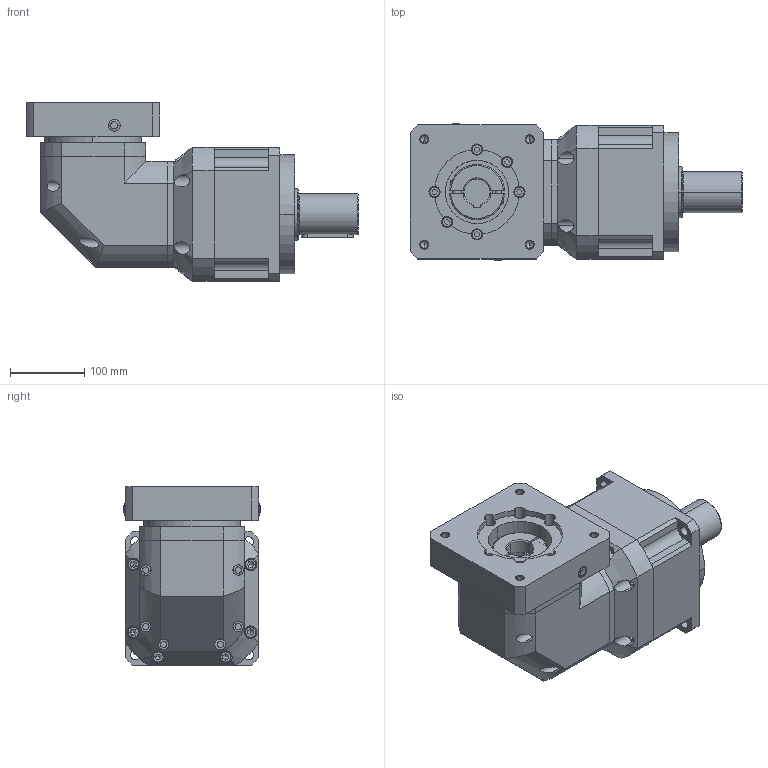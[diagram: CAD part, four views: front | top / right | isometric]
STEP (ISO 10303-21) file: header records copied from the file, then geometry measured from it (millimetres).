
FILE_DESCRIPTION (( 'STEP AP203' ), '1' );
FILE_NAME ('PHFZ180-L2-35-114.3-200-M12(入力带键槽).STEP', '2020-11-27T07:08:15', ( 'ylmfeng' ), ( 'ylmfeng.com' ), 'SwSTEP 2.0', 'SolidWorks 2014', '' );
FILE_SCHEMA (( 'CONFIG_CONTROL_DESIGN' ));
Length unit declared in the file: millimetre
Products named in the file (1): PHFZ180-L2-35-114.3-200-M12(入力带键槽)
Bounding box: 446 x 183 x 240 mm (x, y, z)
Volume: 9312333.9 mm3; surface area: 655209.7 mm2
Topology: 35 solids, 35 shells, 966 faces, 2299 edges, 1443 vertices
Faces by surface type: plane 446, cylinder 322, cone 96, torus 74, bspline 28
Entity records: 30303 total; most frequent: CARTESIAN_POINT 7710, DIRECTION 4883, ORIENTED_EDGE 4514, EDGE_CURVE 2257, AXIS2_PLACEMENT_3D 1869, VERTEX_POINT 1443, LINE 1145, VECTOR 1145
